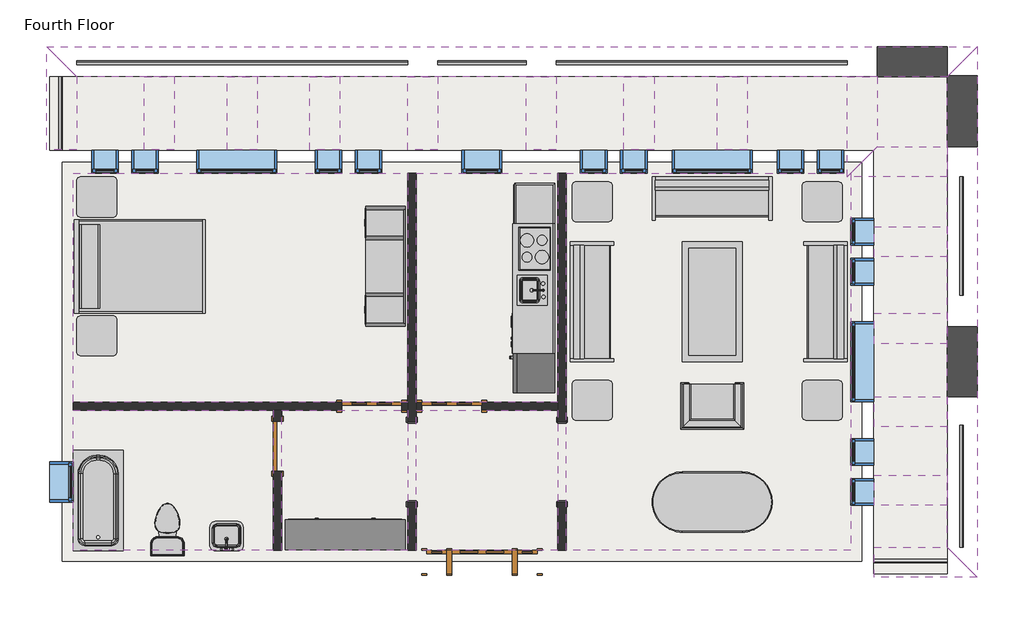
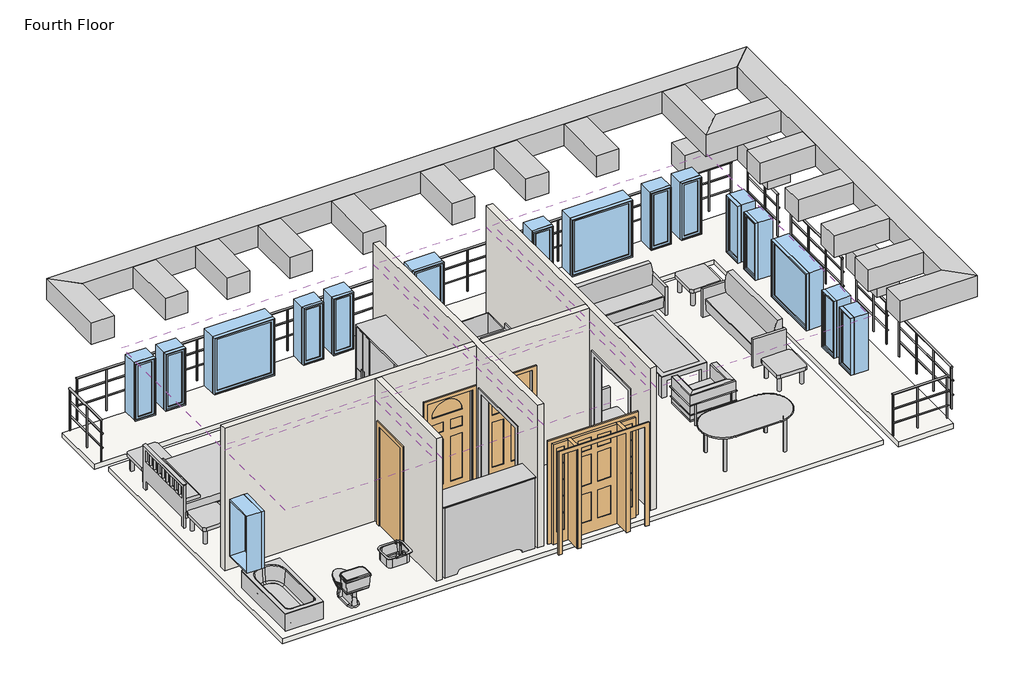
# One storey: 20 beams, 17 windows, 15 furniture elements, 10 railings, 6 coverings, 5 walls, 4 doors, 3 flow terminals, 5 other elements.
"""IFC4 building model written with IfcOpenShell, lengths in millimetres."""

from ifc_helpers import new_model, si_unit, frame, origin, place, context, project, spatial, polyline, outline, extrude, faceted_brep, transform, mapped, element, save
from components import concrete_rectangular_beam_18_x_18_d2ae2ec1, concrete_rectangular_beam_18_x_18_4ba7165a, proxy_64a468c4, proxy_f44482cc, door_829da954, door_2e3b4da2, door_4d6c7550, door_dba5aa2e, flow_terminal_0aeb31e3, toilet_domestic_3d_toilet_domestic_3d_f7549cf7, toilet_domestic_3d_toilet_domestic_3d_183bbd19, tub_rectangular_3d_tub_rectangular_3d_5e45a89b, furniture_096e7f55, chair_corbu_chair_corbu_2764bdef, furniture_7c473f12, furniture_ddc78764, furniture_4ef38d96, furniture_cd93a443, furniture_2c34a4f9, furniture_3a588284, furniture_1befe2a2, handrail_rectangular_d1ca25f8, handrail_rectangular_875d33ba, handrail_rectangular_8bc6fbf6, handrail_rectangular_67571a7d, handrail_rectangular_91c8e9b7, handrail_rectangular_6d217318, handrail_rectangular_7e8bea4f, handrail_rectangular_05f14369, handrail_rectangular_2b1cd781, handrail_rectangular_ba614922, window_da97879f, window_d61ef850, window_60baf983, window_6eb97611

model = new_model("IFC4")

# Units and contexts
model_context = context("Model", 3, world=origin())
ifc_project = project(units=[si_unit("LENGTHUNIT", "METRE", prefix="MILLI")], contexts=[model_context])

# Site, building, storey
site = spatial("IfcSite", under=ifc_project)
building = spatial("IfcBuilding", under=site)
storey = spatial("IfcBuildingStorey", under=building, Name="Fourth Floor", Elevation=9144.0)

# Beams
placement = place(None, origin())
element("IfcBeam", 1, ObjectType="Concrete-Rectangular Beam : 18 x 18", at=placement, inside=storey, context=model_context, shape_type="SweptSolid", body=[
    extrude(outline(polyline([(2551.1410437, 12198.8316867), (2093.9410437, 11741.6316867), (-11164.8589563, 11741.6316867), (-11622.0589563, 12198.8316867), (2551.1410437, 12198.8316867)])), frame((0.0, 0.0, 11734.8), z_axis=(0.0, 0.0, 1.0), x_axis=(1.0, 0.0, 0.0)), (0.0, 0.0, 1.0), 457.2),
])
element("IfcBeam", 2, ObjectType="Concrete-Rectangular Beam : 18 x 18", at=placement, inside=storey, context=model_context, shape_type="Brep", body=[
    faceted_brep([(2093.9410437, 4578.8316867, 12192.0), (2551.1410437, 4121.6316867, 12192.0), (2551.1410437, 12198.8316867, 12192.0), (2093.9410437, 11741.6316867, 12192.0), (2093.9410437, 4578.8316867, 11734.8), (2093.9410437, 11741.6316867, 11734.8), (2551.1410437, 4121.6316867, 11734.8), (2551.1410437, 12198.8316867, 11734.8), (2551.1410437, 11741.6316867, 11734.8)], [[[0, 1, 2, 3]], [[4, 0, 3, 5]], [[6, 4, 5, 7, 8]], [[1, 6, 8, 7, 2]], [[1, 0, 4, 6]], [[2, 7, 5, 3]]]),
])
element("IfcBeam", 3, ObjectType="Concrete-Rectangular Beam : 18 x 18", at=placement, inside=storey, context=model_context, shape_type="Brep", body=[
    faceted_brep([(-11164.8589563, 10624.0316867, 12192.0), (-11622.0589563, 10624.0316867, 12192.0), (-11622.0589563, 10624.0316867, 11734.8), (-11164.8589563, 10624.0316867, 11734.8), (-11164.8589563, 11741.6316867, 12192.0), (-11622.0589563, 12198.8316867, 12192.0), (-11622.0589563, 12198.8316867, 11734.8), (-11622.0589563, 11741.6316867, 11734.8), (-11164.8589563, 11741.6316867, 11734.8)], [[[0, 1, 2, 3]], [[1, 0, 4, 5]], [[2, 1, 5, 6, 7]], [[3, 2, 7, 6, 8]], [[0, 3, 8, 4]], [[4, 8, 6, 5]]]),
])
element("IfcBeam", 4, ObjectType="Concrete-Rectangular Beam : 18 x 18", at=placement, inside=storey, context=model_context, shape_type="SweptSolid", body=[
    extrude(outline(polyline([(1027.1410437, 10674.8316867), (569.9410437, 10217.6316867), (569.9410437, 11741.6316867), (1027.1410437, 11741.6316867), (1027.1410437, 10674.8316867)])), frame((0.0, 0.0, 11734.8), z_axis=(0.0, 0.0, 1.0), x_axis=(1.0, 0.0, 0.0)), (0.0, 0.0, 1.0), 457.2),
])
element("IfcBeam", 5, ObjectType="Concrete-Rectangular Beam : 18 x 18", at=placement, inside=storey, context=model_context, shape_type="SweptSolid", body=[
    extrude(outline(polyline([(569.9410437, 10217.6316867), (1027.1410437, 10674.8316867), (2093.9410437, 10674.8316867), (2093.9410437, 10217.6316867), (569.9410437, 10217.6316867)])), frame((0.0, 0.0, 11734.8), z_axis=(0.0, 0.0, 1.0), x_axis=(1.0, 0.0, 0.0)), (0.0, 0.0, 1.0), 457.2),
])
element("IfcBeam", 6, ObjectType="Concrete-Rectangular Beam : 18 x 18", at=placement, inside=storey, context=model_context, shape_type="Brep", body=[
    faceted_brep([(976.3410437, 4121.6316867, 12192.0), (976.3410437, 4578.8316867, 12192.0), (976.3410437, 4578.8316867, 11734.8), (976.3410437, 4121.6316867, 11734.8), (2551.1410437, 4121.6316867, 12192.0), (2093.9410437, 4578.8316867, 12192.0), (2093.9410437, 4578.8316867, 11734.8), (2551.1410437, 4121.6316867, 11734.8), (2093.9410437, 4121.6316867, 11734.8)], [[[0, 1, 2, 3]], [[1, 0, 4, 5]], [[2, 1, 5, 6]], [[3, 2, 6, 7, 8]], [[0, 3, 8, 7, 4]], [[4, 7, 6, 5]]]),
])
element("IfcBeam", 7, ObjectType="Concrete-Rectangular Beam : 18 x 18", at=placement, inside=storey, context=model_context, shape_type="Brep", body=[
    faceted_brep([(1027.1410437, 11741.6316867, 10668.0), (1027.1410437, 12198.8316867, 10668.0), (1027.1410437, 12198.8316867, 10210.8), (1027.1410437, 11741.6316867, 10210.8), (2093.9410437, 11741.6316867, 10668.0), (2093.9410437, 11741.6316867, 10210.8), (2093.9410437, 11754.3316867, 10210.8), (2093.9410437, 12198.8316867, 10210.8), (2093.9410437, 12198.8316867, 10668.0), (2093.9410437, 11754.3316867, 10668.0)], [[[0, 1, 2, 3]], [[4, 5, 6, 7, 8, 9]], [[1, 0, 4, 9, 8]], [[2, 1, 8, 7]], [[3, 2, 7, 6, 5]], [[0, 3, 5, 4]]]),
])
element("IfcBeam", 8, ObjectType="Concrete-Rectangular Beam : 18 x 18", at=placement, inside=storey, context=model_context, shape_type="Brep", body=[
    faceted_brep([(2551.1410437, 10674.8316867, 10668.0), (2093.9410437, 10674.8316867, 10668.0), (2093.9410437, 10674.8316867, 10210.8), (2551.1410437, 10674.8316867, 10210.8), (2551.1410437, 11754.3316867, 10668.0), (2551.1410437, 11754.3316867, 10210.8), (2093.9410437, 11754.3316867, 10210.8), (2093.9410437, 11754.3316867, 10668.0), (2093.9410437, 11741.6316867, 10668.0), (2093.9410437, 11741.6316867, 10210.8)], [[[0, 1, 2, 3]], [[4, 5, 6, 7]], [[1, 0, 4, 7, 8]], [[2, 1, 8, 7, 6, 9]], [[3, 2, 9, 6, 5]], [[0, 3, 5, 4]]]),
])
concrete_rectangular_beam_18_x_18_shape = concrete_rectangular_beam_18_x_18_d2ae2ec1(model_context)
element("IfcBeam", 9, ObjectType="Concrete-Rectangular Beam : 18 x 18", at=placement, inside=storey, context=model_context, shape_type="MappedRepresentation", body=[
    mapped(concrete_rectangular_beam_18_x_18_shape, transform((-5894.3589563, 11182.8316867, 11963.4), x_axis=(0.0, -1.0, 0.0), y_axis=(1.0, 0.0, 0.0), z_axis=(0.0, 0.0, 1.0))),
])
element("IfcBeam", 10, ObjectType="Concrete-Rectangular Beam : 18 x 18", at=placement, inside=storey, context=model_context, shape_type="MappedRepresentation", body=[
    mapped(concrete_rectangular_beam_18_x_18_shape, transform((-4090.9589563, 11182.8316867, 11963.4), x_axis=(0.0, -1.0, 0.0), y_axis=(1.0, 0.0, 0.0), z_axis=(0.0, 0.0, 1.0))),
])
element("IfcBeam", 11, ObjectType="Concrete-Rectangular Beam : 18 x 18", at=placement, inside=storey, context=model_context, shape_type="MappedRepresentation", body=[
    mapped(concrete_rectangular_beam_18_x_18_shape, transform((1535.1410437, 7906.2316867, 11963.4), x_axis=(-1.0, 0.0, 0.0), y_axis=(0.0, -1.0, 0.0), z_axis=(0.0, 0.0, 1.0))),
])
element("IfcBeam", 12, ObjectType="Concrete-Rectangular Beam : 18 x 18", at=placement, inside=storey, context=model_context, shape_type="MappedRepresentation", body=[
    mapped(concrete_rectangular_beam_18_x_18_shape, transform((1535.1410437, 6636.2316867, 11963.4), x_axis=(-1.0, 0.0, 0.0), y_axis=(0.0, -1.0, 0.0), z_axis=(0.0, 0.0, 1.0))),
])
element("IfcBeam", 13, ObjectType="Concrete-Rectangular Beam : 18 x 18", at=placement, inside=storey, context=model_context, shape_type="MappedRepresentation", body=[
    mapped(concrete_rectangular_beam_18_x_18_shape, transform((-8643.9089563, 11182.8316867, 11963.4), x_axis=(0.0, -1.0, 0.0), y_axis=(1.0, 0.0, 0.0), z_axis=(0.0, 0.0, 1.0))),
])
element("IfcBeam", 14, ObjectType="Concrete-Rectangular Beam : 18 x 18", at=placement, inside=storey, context=model_context, shape_type="MappedRepresentation", body=[
    mapped(concrete_rectangular_beam_18_x_18_shape, transform((-9904.3839563, 11182.8316867, 11963.4), x_axis=(0.0, -1.0, 0.0), y_axis=(1.0, 0.0, 0.0), z_axis=(0.0, 0.0, 1.0))),
])
element("IfcBeam", 15, ObjectType="Concrete-Rectangular Beam : 18 x 18", at=placement, inside=storey, context=model_context, shape_type="MappedRepresentation", body=[
    mapped(concrete_rectangular_beam_18_x_18_shape, transform((-7383.4339563, 11182.8316867, 11963.4), x_axis=(0.0, -1.0, 0.0), y_axis=(1.0, 0.0, 0.0), z_axis=(0.0, 0.0, 1.0))),
])
element("IfcBeam", 16, ObjectType="Concrete-Rectangular Beam : 18 x 18", at=placement, inside=storey, context=model_context, shape_type="MappedRepresentation", body=[
    mapped(concrete_rectangular_beam_18_x_18_shape, transform((-1182.6589563, 11182.8316867, 11963.4), x_axis=(0.0, -1.0, 0.0), y_axis=(1.0, 0.0, 0.0), z_axis=(0.0, 0.0, 1.0))),
])
element("IfcBeam", 17, ObjectType="Concrete-Rectangular Beam : 18 x 18", at=placement, inside=storey, context=model_context, shape_type="MappedRepresentation", body=[
    mapped(concrete_rectangular_beam_18_x_18_shape, transform((-2601.8839563, 11182.8316867, 11963.4), x_axis=(0.0, -1.0, 0.0), y_axis=(1.0, 0.0, 0.0), z_axis=(0.0, 0.0, 1.0))),
])
element("IfcBeam", 18, ObjectType="Concrete-Rectangular Beam : 18 x 18", at=placement, inside=storey, context=model_context, shape_type="MappedRepresentation", body=[
    mapped(concrete_rectangular_beam_18_x_18_shape, transform((1535.1410437, 9227.0316867, 11963.4), x_axis=(-1.0, 0.0, 0.0), y_axis=(0.0, -1.0, 0.0), z_axis=(0.0, 0.0, 1.0))),
])
element("IfcBeam", 19, ObjectType="Concrete-Rectangular Beam : 18 x 18", at=placement, inside=storey, context=model_context, shape_type="MappedRepresentation", body=[
    mapped(concrete_rectangular_beam_18_x_18_shape, transform((1535.1410437, 5442.4316867, 11963.4), x_axis=(-1.0, 0.0, 0.0), y_axis=(0.0, -1.0, 0.0), z_axis=(0.0, 0.0, 1.0))),
])
concrete_rectangular_beam_18_x_18_2_shape = concrete_rectangular_beam_18_x_18_4ba7165a(model_context)
element("IfcBeam", 20, ObjectType="Concrete-Rectangular Beam : 18 x 18", at=placement, inside=storey, context=model_context, shape_type="MappedRepresentation", body=[
    mapped(concrete_rectangular_beam_18_x_18_2_shape, transform((2322.5410437, 7398.2316867, 10439.4), x_axis=(0.0, -1.0, 0.0), y_axis=(1.0, 0.0, 0.0), z_axis=(0.0, 0.0, 1.0))),
])

# Proxies
proxy_shape = proxy_64a468c4(model_context)
element("IfcBuildingElementProxy", 21, Name="Kitchenette - Medium : 8'6\"", ObjectType="Kitchenette - Medium : 8'6\"", at=placement, inside=storey, context=model_context, shape_type="MappedRepresentation", body=[
    mapped(proxy_shape, transform((-3887.7589563, 8837.7956433, 9144.0), x_axis=(0.0, -1.0, 0.0), y_axis=(1.0, 0.0, 0.0), z_axis=(0.0, 0.0, 1.0))),
])
proxy_2_shape = proxy_f44482cc(model_context)
element("IfcBuildingElementProxy", 22, Name="Opening-Cased : 48\" x 84\"", ObjectType="Opening-Cased : 48\" x 84\"", at=placement, inside=storey, context=model_context, shape_type="MappedRepresentation", body=[
    mapped(proxy_2_shape, transform((-3773.4589563, 5882.4203434, 9144.0), x_axis=(0.0, 1.0, 0.0), y_axis=(-1.0, 0.0, 0.0), z_axis=(0.0, 0.0, 1.0))),
])
element("IfcBuildingElementProxy", 23, Name="Opening-Cased : 48\" x 84\"", ObjectType="Opening-Cased : 48\" x 84\"", at=placement, inside=storey, context=model_context, shape_type="MappedRepresentation", body=[
    mapped(proxy_2_shape, transform((-6059.4589563, 5866.04303, 9144.0), x_axis=(0.0, -1.0, 0.0), y_axis=(1.0, 0.0, 0.0), z_axis=(0.0, 0.0, 1.0))),
])

# Coverings
element("IfcCovering", 24, ObjectType="GWB on Mtl. Stud", at=placement, inside=storey, context=model_context, shape_type="SweptSolid", body=[
    extrude(outline(polyline([(-11217.2464563, 10270.0191867), (-6122.9589563, 10270.0191867), (-6122.9589563, 6787.0441867), (-11217.2464563, 6787.0441867), (-11217.2464563, 10270.0191867)])), frame((0.0, 0.0, 11734.8), z_axis=(0.0, 0.0, 1.0), x_axis=(1.0, 0.0, 0.0)), (0.0, 0.0, 1.0), 107.95),
])
element("IfcCovering", 25, ObjectType="GWB on Mtl. Stud", at=placement, inside=storey, context=model_context, shape_type="SweptSolid", body=[
    extrude(outline(polyline([(-5995.9589563, 6787.0441867), (-5995.9589563, 10270.0191867), (-3836.9589563, 10270.0191867), (-3836.9589563, 6787.0441867), (-5995.9589563, 6787.0441867)])), frame((0.0, 0.0, 11734.8), z_axis=(0.0, 0.0, 1.0), x_axis=(1.0, 0.0, 0.0)), (0.0, 0.0, 1.0), 107.95),
])
element("IfcCovering", 26, ObjectType="GWB on Mtl. Stud", at=placement, inside=storey, context=model_context, shape_type="SweptSolid", body=[
    extrude(outline(polyline([(-3709.9589563, 4526.4441867), (-3709.9589563, 10270.0191867), (622.3285437, 10270.0191867), (622.3285437, 4526.4441867), (-3709.9589563, 4526.4441867)])), frame((0.0, 0.0, 11734.8), z_axis=(0.0, 0.0, 1.0), x_axis=(1.0, 0.0, 0.0)), (0.0, 0.0, 1.0), 107.95),
])
element("IfcCovering", 27, ObjectType="GWB on Mtl. Stud", at=placement, inside=storey, context=model_context, shape_type="SweptSolid", body=[
    extrude(outline(polyline([(-3836.9589563, 4526.4441867), (-5995.9589563, 4526.4441867), (-5995.9589563, 6660.0441867), (-3836.9589563, 6660.0441867), (-3836.9589563, 4526.4441867)])), frame((0.0, 0.0, 11734.8), z_axis=(0.0, 0.0, 1.0), x_axis=(1.0, 0.0, 0.0)), (0.0, 0.0, 1.0), 107.95),
])
element("IfcCovering", 28, ObjectType="GWB on Mtl. Stud", at=placement, inside=storey, context=model_context, shape_type="SweptSolid", body=[
    extrude(outline(polyline([(-6122.9589563, 4526.4441867), (-8042.2464563, 4526.4441867), (-8042.2464563, 6660.0441867), (-6122.9589563, 6660.0441867), (-6122.9589563, 4526.4441867)])), frame((0.0, 0.0, 11734.8), z_axis=(0.0, 0.0, 1.0), x_axis=(1.0, 0.0, 0.0)), (0.0, 0.0, 1.0), 107.95),
])
element("IfcCovering", 29, ObjectType="GWB on Mtl. Stud", at=placement, inside=storey, context=model_context, shape_type="SweptSolid", body=[
    extrude(outline(polyline([(-8169.2464563, 6660.0441867), (-8169.2464563, 4526.4441867), (-11217.2464563, 4526.4441867), (-11217.2464563, 6660.0441867), (-8169.2464563, 6660.0441867)])), frame((0.0, 0.0, 11734.8), z_axis=(0.0, 0.0, 1.0), x_axis=(1.0, 0.0, 0.0)), (0.0, 0.0, 1.0), 107.95),
])

# Doors
door_shape = door_829da954(model_context)
element("IfcDoor", 30, ObjectType="Single-Decorative 2 : 36\" x 84\"", at=placement, inside=storey, context=model_context, shape_type="MappedRepresentation", body=[
    mapped(door_shape, transform((-5449.8589563, 6723.5441867, 9144.0), x_axis=(-1.0, 0.0, 0.0), y_axis=(0.0, -1.0, 0.0), z_axis=(0.0, 0.0, 1.0))),
])
door_2_shape = door_2e3b4da2(model_context)
element("IfcDoor", 31, ObjectType="Single-Decorative 2 : 36\" x 84\"", at=placement, inside=storey, context=model_context, shape_type="MappedRepresentation", body=[
    mapped(door_2_shape, transform((-6669.0589563, 6723.5441867, 9144.0), x_axis=(1.0, 0.0, 0.0), y_axis=(0.0, 1.0, 0.0), z_axis=(0.0, 0.0, 1.0))),
])
door_3_shape = door_4d6c7550(model_context)
element("IfcDoor", 32, ObjectType="Single-Flush : 30\" x 84\"", at=placement, inside=storey, context=model_context, shape_type="MappedRepresentation", body=[
    mapped(door_3_shape, transform((-8105.7464563, 6113.9441867, 9144.0), x_axis=(0.0, 1.0, 0.0), y_axis=(-1.0, 0.0, 0.0), z_axis=(0.0, 0.0, 1.0))),
])
door_4_shape = door_dba5aa2e(model_context)
element("IfcDoor", 33, ObjectType="Single-Raised Panel with Sidelights : 36\" x 84\"", at=placement, inside=storey, context=model_context, shape_type="MappedRepresentation", body=[
    mapped(door_4_shape, transform((-4992.6589563, 4350.2316867, 9144.0), x_axis=(-1.0, 0.0, 0.0), y_axis=(0.0, -1.0, 0.0), z_axis=(0.0, 0.0, 1.0))),
])

# Flow terminals
flow_terminal_shape = flow_terminal_0aeb31e3(model_context)
element("IfcFlowTerminal", 34, ObjectType="Sink Vanity-Square : 24\" x 19\"", at=placement, inside=storey, context=model_context, shape_type="MappedRepresentation", body=[
    mapped(flow_terminal_shape, transform((-8864.7572157, 4706.5895878, 9144.0), x_axis=(-1.0, 0.0, 0.0), y_axis=(0.0, -1.0, 0.0), z_axis=(0.0, 0.0, 1.0))),
])
toilet_domestic_3d_toilet_domestic_3d_shape = toilet_domestic_3d_toilet_domestic_3d_f7549cf7(model_context)
toilet_domestic_3d_toilet_domestic_3d_2_shape = toilet_domestic_3d_toilet_domestic_3d_183bbd19(model_context)
element("IfcFlowTerminal", 35, ObjectType="Toilet-Domestic-3D : Toilet-Domestic-3D", at=placement, inside=storey, context=model_context, shape_type="MappedRepresentation", body=[
    mapped(toilet_domestic_3d_toilet_domestic_3d_shape, transform((-9782.1466587, 4940.866411, 9144.0), x_axis=(-1.0000000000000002, 0.0, 0.0), y_axis=(0.0, -1.0000000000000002, 0.0), z_axis=(0.0, 0.0, 1.0))),
    mapped(toilet_domestic_3d_toilet_domestic_3d_2_shape, transform((-9782.1466587, 4940.866411, 9144.0), x_axis=(-1.0000000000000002, 0.0, 0.0), y_axis=(0.0, -1.0000000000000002, 0.0), z_axis=(0.0, 0.0, 1.0))),
])
tub_rectangular_3d_tub_rectangular_3d_shape = tub_rectangular_3d_tub_rectangular_3d_5e45a89b(model_context)
element("IfcFlowTerminal", 36, ObjectType="Tub-Rectangular-3D : Tub-Rectangular-3D", at=placement, inside=storey, context=model_context, shape_type="MappedRepresentation", body=[
    mapped(tub_rectangular_3d_tub_rectangular_3d_shape, transform((-11393.4589563, 5637.0471554, 9144.0), x_axis=(0.0, 1.0, 0.0), y_axis=(-1.0, 0.0, 0.0), z_axis=(0.0, 0.0, 1.0))),
])

# Furniture
furniture_shape = furniture_096e7f55(model_context)
element("IfcFurniture", 37, ObjectType="Bed-Shaker : Double 56\" x 78\"", at=placement, inside=storey, context=model_context, shape_type="MappedRepresentation", body=[
    mapped(furniture_shape, transform((-11183.1982802, 8871.8755561, 9144.0), x_axis=(0.0, 1.0, 0.0), y_axis=(-1.0, 0.0, 0.0), z_axis=(0.0, 0.0, 1.0))),
])
chair_corbu_chair_corbu_shape = chair_corbu_chair_corbu_2764bdef(model_context)
element("IfcFurniture", 38, ObjectType="Chair-Corbu : Chair-Corbu", at=placement, inside=storey, context=model_context, shape_type="MappedRepresentation", body=[
    mapped(chair_corbu_chair_corbu_shape, transform((-914.0851858, 7193.4962359, 9144.0), x_axis=(-1.0, 0.0, 0.0), y_axis=(0.0, -1.0, 0.0), z_axis=(0.0, 0.0, 1.0))),
])
furniture_2_shape = furniture_7c473f12(model_context)
element("IfcFurniture", 39, ObjectType="Dresser : 72\" x 60\" x 18\"", at=placement, inside=storey, context=model_context, shape_type="MappedRepresentation", body=[
    mapped(furniture_2_shape, transform((-7344.6522161, 4404.5812326, 9144.0), x_axis=(-1.0, 0.0, 0.0), y_axis=(0.0, -1.0, 0.0), z_axis=(0.0, 0.0, 1.0))),
])
furniture_3_shape = furniture_ddc78764(model_context)
element("IfcFurniture", 40, ObjectType="Entertainment Center : 72\" x 72\" x 24\"", at=placement, inside=storey, context=model_context, shape_type="MappedRepresentation", body=[
    mapped(furniture_3_shape, transform((-6059.4589563, 8852.8255561, 9144.0), x_axis=(0.0, -1.0, 0.0), y_axis=(1.0, 0.0, 0.0), z_axis=(0.0, 0.0, 1.0))),
])
furniture_4_shape = furniture_4ef38d96(model_context)
element("IfcFurniture", 41, ObjectType="Sofa : 72\"", at=placement, inside=storey, context=model_context, shape_type="MappedRepresentation", body=[
    mapped(furniture_4_shape, transform((-1557.8294481, 9741.2775883, 9144.0), x_axis=(1.0, 0.0, 0.0), y_axis=(0.0, 1.0, 0.0), z_axis=(0.0, 0.0, 1.0))),
])
element("IfcFurniture", 42, ObjectType="Sofa : 72\"", at=placement, inside=storey, context=model_context, shape_type="MappedRepresentation", body=[
    mapped(furniture_4_shape, transform((93.5869453, 8383.0021785, 9144.0), x_axis=(0.0, -1.0, 0.0), y_axis=(1.0, 0.0, 0.0), z_axis=(0.0, 0.0, 1.0))),
])
element("IfcFurniture", 43, ObjectType="Sofa : 72\"", at=placement, inside=storey, context=model_context, shape_type="MappedRepresentation", body=[
    mapped(furniture_4_shape, transform((-3170.104858, 8242.2611949, 9144.0), x_axis=(0.0, 1.0, 0.0), y_axis=(-1.0, 0.0, 0.0), z_axis=(0.0, 0.0, 1.0))),
])
furniture_5_shape = furniture_cd93a443(model_context)
element("IfcFurniture", 44, ObjectType="Table-Coffee : 36\" x 72\" x 18\"", at=placement, inside=storey, context=model_context, shape_type="MappedRepresentation", body=[
    mapped(furniture_5_shape, transform((-1582.6700341, 8330.8974534, 9144.0), x_axis=(0.0, -1.0, 0.0), y_axis=(1.0, 0.0, 0.0), z_axis=(0.0, 0.0, 1.0))),
])
furniture_6_shape = furniture_2c34a4f9(model_context)
element("IfcFurniture", 45, ObjectType="Table-Dining Oval : 36\" x 72\"", at=placement, inside=storey, context=model_context, shape_type="MappedRepresentation", body=[
    mapped(furniture_6_shape, transform((-1085.6392842, 5622.7300473, 9144.0), x_axis=(1.0, 0.0, 0.0), y_axis=(0.0, 1.0, 0.0), z_axis=(0.0, 0.0, 1.0))),
])
furniture_7_shape = furniture_3a588284(model_context)
element("IfcFurniture", 46, ObjectType="Table-End : 24\" x 24\"", at=placement, inside=storey, context=model_context, shape_type="MappedRepresentation", body=[
    mapped(furniture_7_shape, transform((-119.5925866, 9684.2316867, 9144.0), x_axis=(1.0, 0.0, 0.0), y_axis=(0.0, 1.0, 0.0), z_axis=(0.0, 0.0, 1.0))),
])
element("IfcFurniture", 47, ObjectType="Table-End : 24\" x 24\"", at=placement, inside=storey, context=model_context, shape_type="MappedRepresentation", body=[
    mapped(furniture_7_shape, transform((-3624.7925866, 9684.2316867, 9144.0), x_axis=(1.0, 0.0, 0.0), y_axis=(0.0, 1.0, 0.0), z_axis=(0.0, 0.0, 1.0))),
])
element("IfcFurniture", 48, ObjectType="Table-End : 24\" x 24\"", at=placement, inside=storey, context=model_context, shape_type="MappedRepresentation", body=[
    mapped(furniture_7_shape, transform((-3624.7925866, 6660.0441867, 9144.0), x_axis=(1.0, 0.0, 0.0), y_axis=(0.0, 1.0, 0.0), z_axis=(0.0, 0.0, 1.0))),
])
element("IfcFurniture", 49, ObjectType="Table-End : 24\" x 24\"", at=placement, inside=storey, context=model_context, shape_type="MappedRepresentation", body=[
    mapped(furniture_7_shape, transform((-119.5925866, 6660.0441867, 9144.0), x_axis=(1.0, 0.0, 0.0), y_axis=(0.0, 1.0, 0.0), z_axis=(0.0, 0.0, 1.0))),
])
element("IfcFurniture", 50, ObjectType="Table-End : 24\" x 24\"", at=placement, inside=storey, context=model_context, shape_type="MappedRepresentation", body=[
    mapped(furniture_7_shape, transform((-11164.2346356, 9756.0737357, 9144.0), x_axis=(1.0, 0.0, 0.0), y_axis=(0.0, 1.0, 0.0), z_axis=(0.0, 0.0, 1.0))),
])
furniture_8_shape = furniture_1befe2a2(model_context)
element("IfcFurniture", 51, ObjectType="Table-End : 24\" x 24\"", at=placement, inside=storey, context=model_context, shape_type="MappedRepresentation", body=[
    mapped(furniture_8_shape, transform((-11164.2346356, 7949.5773764, 9144.0), x_axis=(1.0, 0.0, 0.0), y_axis=(0.0, 1.0, 0.0), z_axis=(0.0, 0.0, 1.0))),
])

# Railings
handrail_rectangular_shape = handrail_rectangular_d1ca25f8(model_context)
element("IfcRailing", 52, ObjectType="Handrail - Rectangular", at=placement, inside=storey, context=model_context, shape_type="MappedRepresentation", body=[
    mapped(handrail_rectangular_shape, transform((0.0, 0.0, 0.0), x_axis=(1.0, 0.0, 0.0), y_axis=(0.0, 1.0, 0.0), z_axis=(0.0, 0.0, 1.0))),
])
handrail_rectangular_2_shape = handrail_rectangular_875d33ba(model_context)
element("IfcRailing", 53, ObjectType="Handrail - Rectangular", at=placement, inside=storey, context=model_context, shape_type="MappedRepresentation", body=[
    mapped(handrail_rectangular_2_shape, transform((0.0, 0.0, 0.0), x_axis=(1.0, 0.0, 0.0), y_axis=(0.0, 1.0, 0.0), z_axis=(0.0, 0.0, 1.0))),
])
handrail_rectangular_3_shape = handrail_rectangular_8bc6fbf6(model_context)
element("IfcRailing", 54, ObjectType="Handrail - Rectangular", at=placement, inside=storey, context=model_context, shape_type="MappedRepresentation", body=[
    mapped(handrail_rectangular_3_shape, transform((0.0, 0.0, 0.0), x_axis=(1.0, 0.0, 0.0), y_axis=(0.0, 1.0, 0.0), z_axis=(0.0, 0.0, 1.0))),
])
handrail_rectangular_4_shape = handrail_rectangular_67571a7d(model_context)
element("IfcRailing", 55, ObjectType="Handrail - Rectangular", at=placement, inside=storey, context=model_context, shape_type="MappedRepresentation", body=[
    mapped(handrail_rectangular_4_shape, transform((0.0, 0.0, 0.0), x_axis=(1.0, 0.0, 0.0), y_axis=(0.0, 1.0, 0.0), z_axis=(0.0, 0.0, 1.0))),
])
handrail_rectangular_5_shape = handrail_rectangular_91c8e9b7(model_context)
element("IfcRailing", 56, ObjectType="Handrail - Rectangular", at=placement, inside=storey, context=model_context, shape_type="MappedRepresentation", body=[
    mapped(handrail_rectangular_5_shape, transform((0.0, 0.0, 0.0), x_axis=(1.0, 0.0, 0.0), y_axis=(0.0, 1.0, 0.0), z_axis=(0.0, 0.0, 1.0))),
])
handrail_rectangular_6_shape = handrail_rectangular_6d217318(model_context)
element("IfcRailing", 57, ObjectType="Handrail - Rectangular", at=placement, inside=storey, context=model_context, shape_type="MappedRepresentation", body=[
    mapped(handrail_rectangular_6_shape, transform((0.0, 0.0, 0.0), x_axis=(1.0, 0.0, 0.0), y_axis=(0.0, 1.0, 0.0), z_axis=(0.0, 0.0, 1.0))),
])
handrail_rectangular_7_shape = handrail_rectangular_7e8bea4f(model_context)
element("IfcRailing", 58, ObjectType="Handrail - Rectangular", at=placement, inside=storey, context=model_context, shape_type="MappedRepresentation", body=[
    mapped(handrail_rectangular_7_shape, transform((0.0, 0.0, 0.0), x_axis=(1.0, 0.0, 0.0), y_axis=(0.0, 1.0, 0.0), z_axis=(0.0, 0.0, 1.0))),
])
handrail_rectangular_8_shape = handrail_rectangular_05f14369(model_context)
element("IfcRailing", 59, ObjectType="Handrail - Rectangular", at=placement, inside=storey, context=model_context, shape_type="MappedRepresentation", body=[
    mapped(handrail_rectangular_8_shape, transform((0.0, 0.0, 0.0), x_axis=(1.0, 0.0, 0.0), y_axis=(0.0, 1.0, 0.0), z_axis=(0.0, 0.0, 1.0))),
])
handrail_rectangular_9_shape = handrail_rectangular_2b1cd781(model_context)
element("IfcRailing", 60, ObjectType="Handrail - Rectangular", at=placement, inside=storey, context=model_context, shape_type="MappedRepresentation", body=[
    mapped(handrail_rectangular_9_shape, transform((0.0, 0.0, 0.0), x_axis=(1.0, 0.0, 0.0), y_axis=(0.0, 1.0, 0.0), z_axis=(0.0, 0.0, 1.0))),
])
handrail_rectangular_10_shape = handrail_rectangular_ba614922(model_context)
element("IfcRailing", 61, ObjectType="Handrail - Rectangular", at=placement, inside=storey, context=model_context, shape_type="MappedRepresentation", body=[
    mapped(handrail_rectangular_10_shape, transform((0.0, 0.0, 0.0), x_axis=(1.0, 0.0, 0.0), y_axis=(0.0, 1.0, 0.0), z_axis=(0.0, 0.0, 1.0))),
])

# Slabs
element("IfcSlab", 62, ObjectType="LW Concrete on Metal Deck", at=placement, inside=storey, context=model_context, shape_type="SweptSolid", body=[
    extrude(outline(polyline([(787.4285437, 10435.1191867), (787.4285437, 4361.3441867), (-11382.3464563, 4361.3441867), (-11382.3464563, 10435.1191867), (787.4285437, 10435.1191867)])), frame((0.0, 0.0, 9039.225), z_axis=(0.0, 0.0, 1.0), x_axis=(1.0, 0.0, 0.0)), (0.0, 0.0, 1.0), 104.775),
])
element("IfcSlab", 63, ObjectType="LW Concrete on Metal Deck", at=placement, inside=storey, context=model_context, shape_type="SweptSolid", body=[
    extrude(outline(polyline([(2093.9410437, 11741.6316867), (2093.9410437, 4174.0191867), (974.7535437, 4174.0191867), (974.7535437, 10622.4441867), (-11569.6714563, 10622.4441867), (-11569.6714563, 11741.6316867), (2093.9410437, 11741.6316867)])), frame((0.0, 0.0, 9039.225), z_axis=(0.0, 0.0, 1.0), x_axis=(1.0, 0.0, 0.0)), (0.0, 0.0, 1.0), 104.775),
])

# Walls
element("IfcWall", 64, ObjectType="Interior - 5\" Partition (2-hr)", at=placement, inside=storey, context=model_context, shape_type="Brep", body=[
    faceted_brep([(-3709.9589563, 10270.0191867, 9144.0), (-3709.9589563, 6483.8316867, 9144.0), (-3836.9589563, 6483.8316867, 9144.0), (-3836.9589563, 6660.0441867, 9144.0), (-3836.9589563, 6787.0441867, 9144.0), (-3836.9589563, 10270.0191867, 9144.0), (-3709.9589563, 5264.6316867, 9144.0), (-3709.9589563, 4526.4441867, 9144.0), (-3836.9589563, 4526.4441867, 9144.0), (-3836.9589563, 5264.6316867, 9144.0), (-3836.9589563, 10270.0191867, 12192.0), (-3836.9589563, 6787.0441867, 12192.0), (-3836.9589563, 6660.0441867, 12192.0), (-3836.9589563, 4526.4441867, 12192.0), (-3709.9589563, 4526.4441867, 12192.0), (-3709.9589563, 10270.0191867, 12192.0), (-3836.9589563, 6483.8316867, 11277.6), (-3836.9589563, 5264.6316867, 11277.6), (-3709.9589563, 6483.8316867, 11277.6), (-3709.9589563, 5264.6316867, 11277.6)], [[[0, 1, 2, 3, 4, 5]], [[6, 7, 8, 9]], [[10, 11, 12, 13, 14, 15]], [[5, 4, 3, 2, 16, 17, 9, 8, 13, 12, 11, 10]], [[18, 1, 0, 15, 14, 7, 6, 19]], [[5, 10, 15, 0]], [[13, 8, 7, 14]], [[9, 17, 19, 6]], [[16, 2, 1, 18]], [[17, 16, 18, 19]]]),
])
element("IfcWall", 65, ObjectType="Interior - 5\" Partition (2-hr)", at=placement, inside=storey, context=model_context, shape_type="Brep", body=[
    faceted_brep([(-6122.9589563, 4526.4441867, 9144.0), (-6122.9589563, 5264.6316867, 9144.0), (-5995.9589563, 5264.6316867, 9144.0), (-5995.9589563, 4526.4441867, 9144.0), (-6122.9589563, 6483.8316867, 9144.0), (-6122.9589563, 6660.0441867, 9144.0), (-6122.9589563, 6787.0441867, 9144.0), (-6122.9589563, 10270.0191867, 9144.0), (-5995.9589563, 10270.0191867, 9144.0), (-5995.9589563, 6787.0441867, 9144.0), (-5995.9589563, 6660.0441867, 9144.0), (-5995.9589563, 6483.8316867, 9144.0), (-6122.9589563, 10270.0191867, 12192.0), (-6122.9589563, 6787.0441867, 12192.0), (-6122.9589563, 6660.0441867, 12192.0), (-6122.9589563, 4526.4441867, 12192.0), (-5995.9589563, 4526.4441867, 12192.0), (-5995.9589563, 6660.0441867, 12192.0), (-5995.9589563, 6787.0441867, 12192.0), (-5995.9589563, 10270.0191867, 12192.0), (-6122.9589563, 5264.6316867, 11277.6), (-6122.9589563, 6483.8316867, 11277.6), (-5995.9589563, 5264.6316867, 11277.6), (-5995.9589563, 6483.8316867, 11277.6)], [[[0, 1, 2, 3]], [[4, 5, 6, 7, 8, 9, 10, 11]], [[12, 13, 14, 15, 16, 17, 18, 19]], [[20, 1, 0, 15, 14, 13, 12, 7, 6, 5, 4, 21]], [[3, 2, 22, 23, 11, 10, 9, 8, 19, 18, 17, 16]], [[7, 12, 19, 8]], [[15, 0, 3, 16]], [[11, 23, 21, 4]], [[22, 2, 1, 20]], [[23, 22, 20, 21]]]),
])
element("IfcWall", 66, ObjectType="Interior - 5\" Partition (2-hr)", at=placement, inside=storey, context=model_context, shape_type="Brep", body=[
    faceted_brep([(-6122.9589563, 6660.0441867, 9144.0), (-6211.8589563, 6660.0441867, 9144.0), (-6211.8589563, 6787.0441867, 9144.0), (-6122.9589563, 6787.0441867, 9144.0), (-7126.2589563, 6660.0441867, 9144.0), (-8042.2464563, 6660.0441867, 9144.0), (-8169.2464563, 6660.0441867, 9144.0), (-11217.2464563, 6660.0441867, 9144.0), (-11217.2464563, 6787.0441867, 9144.0), (-7126.2589563, 6787.0441867, 9144.0), (-11217.2464563, 6660.0441867, 12192.0), (-8169.2464563, 6660.0441867, 12192.0), (-8042.2464563, 6660.0441867, 12192.0), (-6122.9589563, 6660.0441867, 12192.0), (-6122.9589563, 6787.0441867, 12192.0), (-11217.2464563, 6787.0441867, 12192.0), (-6211.8589563, 6660.0441867, 11277.6), (-7126.2589563, 6660.0441867, 11277.6), (-6211.8589563, 6787.0441867, 11277.6), (-7126.2589563, 6787.0441867, 11277.6)], [[[0, 1, 2, 3]], [[4, 5, 6, 7, 8, 9]], [[10, 11, 12, 13, 14, 15]], [[16, 1, 0, 13, 12, 11, 10, 7, 6, 5, 4, 17]], [[3, 2, 18, 19, 9, 8, 15, 14]], [[13, 0, 3, 14]], [[7, 10, 15, 8]], [[18, 2, 1, 16]], [[19, 18, 16, 17]], [[9, 19, 17, 4]]]),
])
element("IfcWall", 67, ObjectType="Interior - 5\" Partition (2-hr)", at=placement, inside=storey, context=model_context, shape_type="SweptSolid", body=[
    extrude(outline(polyline([(6660.0441867, 9144.0), (6494.9441867, 9144.0), (6494.9441867, 11277.6), (5732.9441867, 11277.6), (5732.9441867, 9144.0), (4526.4441867, 9144.0), (4526.4441867, 12192.0), (6660.0441867, 12192.0), (6660.0441867, 9144.0)])), frame((-8169.2464563, 0.0, 0.0), z_axis=(1.0, 0.0, 0.0), x_axis=(0.0, 1.0, 0.0)), (0.0, 0.0, 1.0), 127.0),
])
element("IfcWall", 68, ObjectType="Interior - 5\" Partition (2-hr)", at=placement, inside=storey, context=model_context, shape_type="SweptSolid", body=[
    extrude(outline(polyline([(9144.0, -5995.9589563), (9144.0, -5907.0589563), (11277.6, -5907.0589563), (11277.6, -4992.6589563), (9144.0, -4992.6589563), (9144.0, -3836.9589563), (12192.0, -3836.9589563), (12192.0, -5995.9589563), (9144.0, -5995.9589563)])), frame((0.0, 6660.0441867, 0.0), z_axis=(0.0, 1.0, 0.0), x_axis=(0.0, 0.0, 1.0)), (0.0, 0.0, 1.0), 127.0),
])

# Windows
window_shape = window_da97879f(model_context)
element("IfcWindow", 69, ObjectType="Fixed : 16\" x 48\"", at=placement, inside=storey, context=model_context, shape_type="MappedRepresentation", body=[
    mapped(window_shape, transform((-10771.1589563, 10446.2316867, 9144.0), x_axis=(-1.0, 0.0, 0.0), y_axis=(0.0, -1.0, 0.0), z_axis=(0.0, 0.0, 1.0))),
])
element("IfcWindow", 70, ObjectType="Fixed : 16\" x 48\"", at=placement, inside=storey, context=model_context, shape_type="MappedRepresentation", body=[
    mapped(window_shape, transform((-10161.5589563, 10446.2316867, 9144.0), x_axis=(-1.0, 0.0, 0.0), y_axis=(0.0, -1.0, 0.0), z_axis=(0.0, 0.0, 1.0))),
])
element("IfcWindow", 71, ObjectType="Fixed : 16\" x 48\"", at=placement, inside=storey, context=model_context, shape_type="MappedRepresentation", body=[
    mapped(window_shape, transform((-3328.9589563, 10446.2316867, 9144.0), x_axis=(-1.0, 0.0, 0.0), y_axis=(0.0, -1.0, 0.0), z_axis=(0.0, 0.0, 1.0))),
])
element("IfcWindow", 72, ObjectType="Fixed : 16\" x 48\"", at=placement, inside=storey, context=model_context, shape_type="MappedRepresentation", body=[
    mapped(window_shape, transform((-2719.3589563, 10446.2316867, 9144.0), x_axis=(-1.0, 0.0, 0.0), y_axis=(0.0, -1.0, 0.0), z_axis=(0.0, 0.0, 1.0))),
])
element("IfcWindow", 73, ObjectType="Fixed : 16\" x 48\"", at=placement, inside=storey, context=model_context, shape_type="MappedRepresentation", body=[
    mapped(window_shape, transform((798.5410437, 9417.5316867, 9144.0), x_axis=(0.0, 1.0, 0.0), y_axis=(-1.0, 0.0, 0.0), z_axis=(0.0, 0.0, 1.0))),
])
element("IfcWindow", 74, ObjectType="Fixed : 16\" x 48\"", at=placement, inside=storey, context=model_context, shape_type="MappedRepresentation", body=[
    mapped(window_shape, transform((798.5410437, 8807.9316867, 9144.0), x_axis=(0.0, 1.0, 0.0), y_axis=(-1.0, 0.0, 0.0), z_axis=(0.0, 0.0, 1.0))),
])
window_2_shape = window_d61ef850(model_context)
element("IfcWindow", 75, ObjectType="Fixed : 16\" x 48\"", at=placement, inside=storey, context=model_context, shape_type="MappedRepresentation", body=[
    mapped(window_2_shape, transform((-6681.7589563, 10446.2316867, 9144.0), x_axis=(1.0, 0.0, 0.0), y_axis=(0.0, 1.0, 0.0), z_axis=(0.0, 0.0, 1.0))),
])
element("IfcWindow", 76, ObjectType="Fixed : 16\" x 48\"", at=placement, inside=storey, context=model_context, shape_type="MappedRepresentation", body=[
    mapped(window_2_shape, transform((-7291.3589563, 10446.2316867, 9144.0), x_axis=(1.0, 0.0, 0.0), y_axis=(0.0, 1.0, 0.0), z_axis=(0.0, 0.0, 1.0))),
])
element("IfcWindow", 77, ObjectType="Fixed : 16\" x 48\"", at=placement, inside=storey, context=model_context, shape_type="MappedRepresentation", body=[
    mapped(window_2_shape, transform((354.0410437, 10446.2316867, 9144.0), x_axis=(1.0, 0.0, 0.0), y_axis=(0.0, 1.0, 0.0), z_axis=(0.0, 0.0, 1.0))),
])
element("IfcWindow", 78, ObjectType="Fixed : 16\" x 48\"", at=placement, inside=storey, context=model_context, shape_type="MappedRepresentation", body=[
    mapped(window_2_shape, transform((-255.5589563, 10446.2316867, 9144.0), x_axis=(1.0, 0.0, 0.0), y_axis=(0.0, 1.0, 0.0), z_axis=(0.0, 0.0, 1.0))),
])
element("IfcWindow", 79, ObjectType="Fixed : 16\" x 48\"", at=placement, inside=storey, context=model_context, shape_type="MappedRepresentation", body=[
    mapped(window_2_shape, transform((798.5410437, 5378.9316867, 9144.0), x_axis=(0.0, -1.0, 0.0), y_axis=(1.0, 0.0, 0.0), z_axis=(0.0, 0.0, 1.0))),
])
element("IfcWindow", 80, ObjectType="Fixed : 16\" x 48\"", at=placement, inside=storey, context=model_context, shape_type="MappedRepresentation", body=[
    mapped(window_2_shape, transform((798.5410437, 5988.5316867, 9144.0), x_axis=(0.0, -1.0, 0.0), y_axis=(1.0, 0.0, 0.0), z_axis=(0.0, 0.0, 1.0))),
])
window_3_shape = window_60baf983(model_context)
element("IfcWindow", 81, ObjectType="Fixed : 24\" x 48\"", at=placement, inside=storey, context=model_context, shape_type="MappedRepresentation", body=[
    mapped(window_3_shape, transform((-5030.7589563, 10446.2316867, 9144.0), x_axis=(-1.0, 0.0, 0.0), y_axis=(0.0, -1.0, 0.0), z_axis=(0.0, 0.0, 1.0))),
])
element("IfcWindow", 82, ObjectType="Fixed : 24\" x 48\"", at=placement, inside=storey, context=model_context, shape_type="MappedRepresentation", body=[
    mapped(window_3_shape, transform((-11393.4589563, 5531.3316867, 9144.0), x_axis=(0.0, -1.0, 0.0), y_axis=(1.0, 0.0, 0.0), z_axis=(0.0, 0.0, 1.0))),
])
window_4_shape = window_6eb97611(model_context)
element("IfcWindow", 83, ObjectType="Fixed : 48\" x 48\"", at=placement, inside=storey, context=model_context, shape_type="MappedRepresentation", body=[
    mapped(window_4_shape, transform((-8764.5589563, 10446.2316867, 9144.0), x_axis=(-1.0, 0.0, 0.0), y_axis=(0.0, -1.0, 0.0), z_axis=(0.0, 0.0, 1.0))),
])
element("IfcWindow", 84, ObjectType="Fixed : 48\" x 48\"", at=placement, inside=storey, context=model_context, shape_type="MappedRepresentation", body=[
    mapped(window_4_shape, transform((-1525.5589563, 10446.2316867, 9144.0), x_axis=(-1.0, 0.0, 0.0), y_axis=(0.0, -1.0, 0.0), z_axis=(0.0, 0.0, 1.0))),
])
element("IfcWindow", 85, ObjectType="Fixed : 48\" x 48\"", at=placement, inside=storey, context=model_context, shape_type="MappedRepresentation", body=[
    mapped(window_4_shape, transform((798.5410437, 7436.3316867, 9144.0), x_axis=(0.0, 1.0, 0.0), y_axis=(-1.0, 0.0, 0.0), z_axis=(0.0, 0.0, 1.0))),
])

save(model, "model.ifc")
